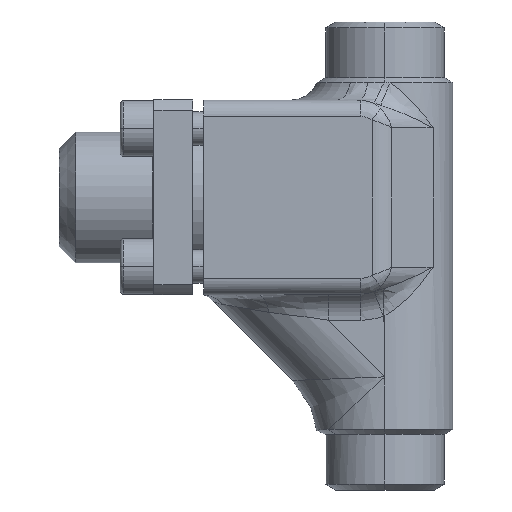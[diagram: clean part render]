
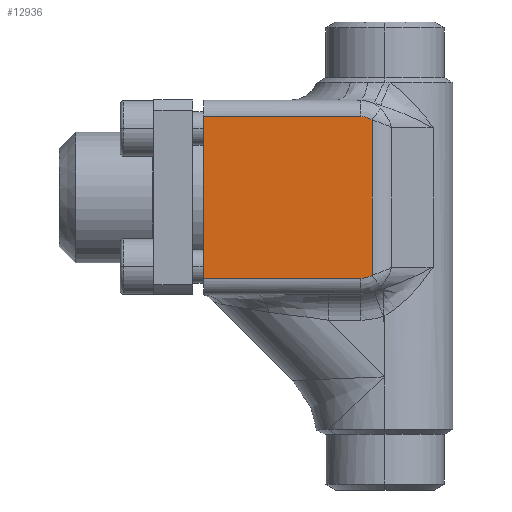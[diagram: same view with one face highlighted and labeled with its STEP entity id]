
A CAD part, left-side view. The second image highlights one B-rep face of the part: STEP entity #12936.
In plain terms, the highlighted planar face has unit normal (-1, 0, 0).
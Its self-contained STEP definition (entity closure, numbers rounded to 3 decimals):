
#1779 = CARTESIAN_POINT ( 'NONE',  ( -17.5, 2.318, -31.414 ) ) ;
#1981 =( BOUNDED_CURVE ( )  B_SPLINE_CURVE ( 3, ( #1982, #1983, #1984, #1987 ),
 .UNSPECIFIED., .F., .T. ) 
 B_SPLINE_CURVE_WITH_KNOTS ( ( 4, 4 ),
 ( 1.571, 2.356 ),
 .UNSPECIFIED. ) 
 CURVE ( )  GEOMETRIC_REPRESENTATION_ITEM ( )  RATIONAL_B_SPLINE_CURVE ( ( 1., 0.949, 0.949, 1. ) ) 
 REPRESENTATION_ITEM ( '' )  );
#1982 = CARTESIAN_POINT ( 'NONE',  ( -17.5, 4.318, -32. ) ) ;
#1983 = CARTESIAN_POINT ( 'NONE',  ( -17.5, 3.557, -32. ) ) ;
#1984 = CARTESIAN_POINT ( 'NONE',  ( -17.5, 2.855, -31.794 ) ) ;
#1987 = CARTESIAN_POINT ( 'NONE',  ( -17.5, 2.318, -31.414 ) ) ;
#3043 = CARTESIAN_POINT ( 'NONE',  ( -17.5, 4.318, -32. ) ) ;
#3772 = LINE ( 'NONE', #3773, #3774 ) ;
#3773 = CARTESIAN_POINT ( 'NONE',  ( -17.5, 32.5, -3. ) ) ;
#3774 = VECTOR ( 'NONE', #3775, 1000. ) ;
#3775 = DIRECTION ( 'NONE',  ( 0., 1., 0. ) ) ;
#3776 = CARTESIAN_POINT ( 'NONE',  ( -17.5, 32.5, -32. ) ) ;
#4884 = LINE ( 'NONE', #4885, #4886 ) ;
#4885 = CARTESIAN_POINT ( 'NONE',  ( -17.5, 0.247, -32. ) ) ;
#4886 = VECTOR ( 'NONE', #4891, 1000. ) ;
#4891 = DIRECTION ( 'NONE',  ( 0., -1., 0. ) ) ;
#5593 = CARTESIAN_POINT ( 'NONE',  ( -17.5, 32.5, -3. ) ) ;
#7156 = EDGE_CURVE ( 'NONE', #8165, #14943, #3772, .T. ) ;
#7515 = ORIENTED_EDGE ( 'NONE', *, *, #7156, .T. ) ;
#8165 = VERTEX_POINT ( 'NONE', #8961 ) ;
#8379 = EDGE_CURVE ( 'NONE', #9221, #8165, #9211, .T. ) ;
#8732 = ORIENTED_EDGE ( 'NONE', *, *, #8379, .T. ) ;
#8961 = CARTESIAN_POINT ( 'NONE',  ( -17.5, 4.318, -3. ) ) ;
#9211 =( BOUNDED_CURVE ( )  B_SPLINE_CURVE ( 3, ( #9212, #9213, #9214, #9215 ),
 .UNSPECIFIED., .F., .F. ) 
 B_SPLINE_CURVE_WITH_KNOTS ( ( 4, 4 ),
 ( 0.785, 1.571 ),
 .UNSPECIFIED. ) 
 CURVE ( )  GEOMETRIC_REPRESENTATION_ITEM ( )  RATIONAL_B_SPLINE_CURVE ( ( 1., 0.949, 0.949, 1. ) ) 
 REPRESENTATION_ITEM ( '' )  );
#9212 = CARTESIAN_POINT ( 'NONE',  ( -17.5, 2.318, -3.586 ) ) ;
#9213 = CARTESIAN_POINT ( 'NONE',  ( -17.5, 2.855, -3.206 ) ) ;
#9214 = CARTESIAN_POINT ( 'NONE',  ( -17.5, 3.557, -3. ) ) ;
#9215 = CARTESIAN_POINT ( 'NONE',  ( -17.5, 4.318, -3. ) ) ;
#9221 = VERTEX_POINT ( 'NONE', #13681 ) ;
#9357 = FACE_OUTER_BOUND ( 'NONE', #12706, .T. ) ;
#9358 = PLANE ( 'NONE',  #9359 ) ;
#9359 = AXIS2_PLACEMENT_3D ( 'NONE', #9360, #9361, #9362 ) ;
#9360 = CARTESIAN_POINT ( 'NONE',  ( -17.5, 32.5, -35. ) ) ;
#9361 = DIRECTION ( 'NONE',  ( -1., 0., 0. ) ) ;
#9362 = DIRECTION ( 'NONE',  ( 0., -1., 0. ) ) ;
#9434 = EDGE_CURVE ( 'NONE', #10270, #9221, #13979, .T. ) ;
#9659 = EDGE_CURVE ( 'NONE', #11661, #14943, #16086, .T. ) ;
#9783 = ORIENTED_EDGE ( 'NONE', *, *, #9434, .T. ) ;
#9941 = ORIENTED_EDGE ( 'NONE', *, *, #9659, .F. ) ;
#10270 = VERTEX_POINT ( 'NONE', #1779 ) ;
#10481 = EDGE_CURVE ( 'NONE', #11327, #10270, #1981, .T. ) ;
#10835 = ORIENTED_EDGE ( 'NONE', *, *, #10481, .T. ) ;
#11327 = VERTEX_POINT ( 'NONE', #3043 ) ;
#11661 = VERTEX_POINT ( 'NONE', #3776 ) ;
#11871 = EDGE_CURVE ( 'NONE', #11661, #11327, #4884, .T. ) ;
#12220 = ORIENTED_EDGE ( 'NONE', *, *, #11871, .T. ) ;
#12706 = EDGE_LOOP ( 'NONE', ( #12220, #10835, #9783, #8732, #7515, #9941 ) ) ;
#12936 = ADVANCED_FACE ( 'NONE', ( #9357 ), #9358, .T. ) ;
#13681 = CARTESIAN_POINT ( 'NONE',  ( -17.5, 2.318, -3.586 ) ) ;
#13979 = LINE ( 'NONE', #13980, #13981 ) ;
#13980 = CARTESIAN_POINT ( 'NONE',  ( -17.5, 2.318, -35. ) ) ;
#13981 = VECTOR ( 'NONE', #13982, 1000. ) ;
#13982 = DIRECTION ( 'NONE',  ( 0., 0., 1. ) ) ;
#14943 = VERTEX_POINT ( 'NONE', #5593 ) ;
#16086 = LINE ( 'NONE', #16087, #16088 ) ;
#16087 = CARTESIAN_POINT ( 'NONE',  ( -17.5, 32.5, -35. ) ) ;
#16088 = VECTOR ( 'NONE', #16089, 1000. ) ;
#16089 = DIRECTION ( 'NONE',  ( 0., 0., 1. ) ) ;
